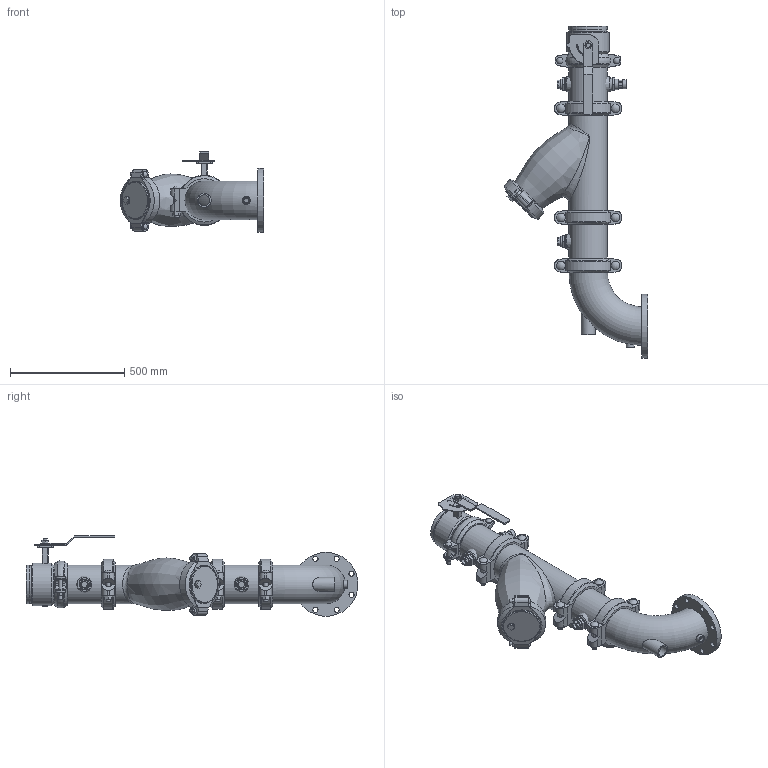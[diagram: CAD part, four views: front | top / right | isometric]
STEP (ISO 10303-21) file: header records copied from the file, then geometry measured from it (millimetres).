
FILE_DESCRIPTION(/* description */ ('VIC SVI PUMP DROP HORZ S/382 (OGSxFLG) (S/924-0.75)','CAx-IF Rec.Pracs.---Representation and Presentation of Product Manufacturing Information (PMI)---4.0---2014-10-13'),/* implementation_level */ '2;1');
FILE_NAME(/* name */ 'C:\Users\Vjadhav\AppData\Roaming\Autodesk\ApplicationPlugins\Victaulic.Temp\A115\Series 382 (OGSxFLG)_924 (0.75)_06.0x06.0 (150x150).stp',/* time_stamp */ '2022-03-17T12:19:40+06:00',/* author */ ('kkamble'),/* organization */ ('Victaulic'),/* preprocessor_version */ 'ST-DEVELOPER v17.2',/* originating_system */ 'Autodesk Inventor 2019',/* authorisation */ '');
FILE_SCHEMA (('AP242_MANAGED_MODEL_BASED_3D_ENGINEERING_MIM_LF { 1 0 10303 442 1 1 4 }'));
Length unit declared in the file: inch
Products named in the file (13): 382_924 (0.75)-06.0x06.0; PIPE-06.0; 107N-06.0; 732-06.0; 732-06.0_1; 07-06.0; 732-06.0_2; PIPE-06.3; 761-06.0; 924-04.0x0.75; 177N-06.0; 923-04.0x0.75; 100F-06.0
Assembly tree (15 placements, depth 3):
  382_924 (0.75)-06.0x06.0
    PIPE-06.0
    107N-06.0
    732-06.0
      732-06.0_1
      07-06.0
      732-06.0_2
    177N-06.0  x3
    PIPE-06.3
    761-06.0
    924-04.0x0.75
    923-04.0x0.75  x2
    100F-06.0
Bounding box: 627.13 x 1450.97 x 352.55 mm (x, y, z)
Volume: 14098038 mm3; surface area: 2902810.3 mm2
Topology: 14 solids, 17 shells, 877 faces, 2253 edges, 1499 vertices
Faces by surface type: plane 488, cylinder 293, torus 33, cone 27, bspline 26, sphere 10
Full cylindrical faces by diameter (mm): 4.826 x10, 8.636 x4, 15.875 x8, 19.05 x8, 20.93 x1, 22.352 x8, 22.86 x1, 26.67 x5, 27.381 x4, 31.75 x1, 34.29 x1, 37.694 x6, 38.608 x1, 45.974 x6, 48.26 x1, 55.118 x1, 55.626 x3, 60.96 x1, 139.7 x1, 153.797 x1, 154.051 x6, 155.575 x5, 163.957 x11, 168.275 x26, 185.42 x1, 279.4 x1
Entity records: 24865 total; most frequent: CARTESIAN_POINT 7740, DIRECTION 3477, ORIENTED_EDGE 3234, EDGE_CURVE 1617, AXIS2_PLACEMENT_3D 1329, VERTEX_POINT 1081, LINE 819, VECTOR 819
